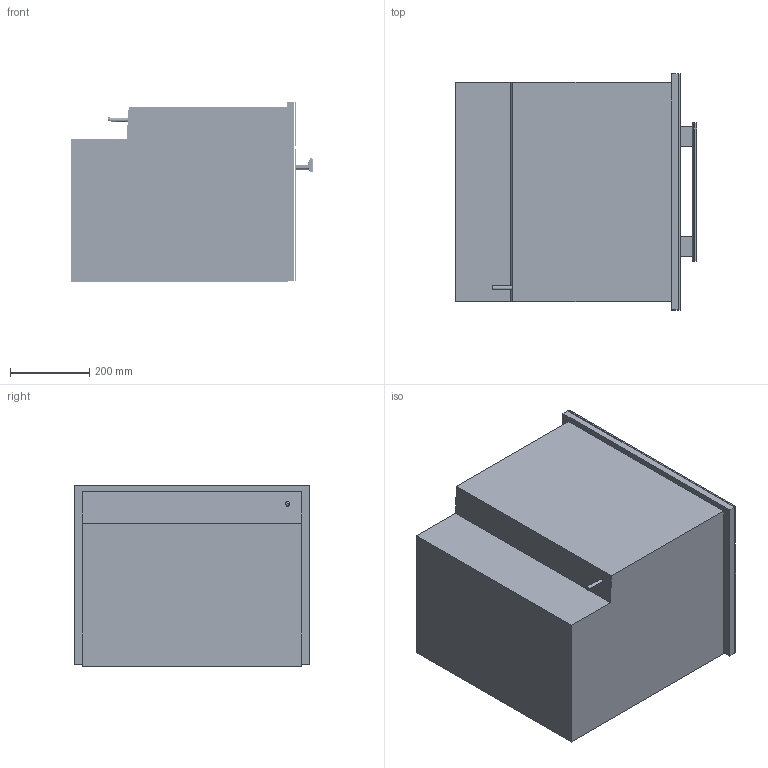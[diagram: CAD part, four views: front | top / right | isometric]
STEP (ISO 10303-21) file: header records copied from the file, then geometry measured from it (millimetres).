
FILE_DESCRIPTION(/* description */ (''),/* implementation_level */ '2;1');
FILE_NAME(/* name */ 'H6800BP_BRWS',/* time_stamp */ '2013-04-20T16:10:30+02:00',/* author */ (''),/* organization */ (''),/* preprocessor_version */ 'ST-DEVELOPER v10',/* originating_system */ '',/* authorisation */ '');
FILE_SCHEMA (('AUTOMOTIVE_DESIGN_CC2'));
Length unit declared in the file: millimetre
Products named in the file (1): 1
Bounding box: 608.89 x 595 x 455.1 mm (x, y, z)
Volume: 83160149.5 mm3; surface area: 3493872.9 mm2
Topology: 34 solids, 35 shells, 180 faces, 311 edges, 198 vertices
Faces by surface type: bspline 180
Entity records: 54174 total; most frequent: CARTESIAN_POINT 51807, ORIENTED_EDGE 610, EDGE_CURVE 307, B_SPLINE_CURVE_WITH_KNOTS 201, VERTEX_POINT 198, EDGE_LOOP 184, ADVANCED_FACE 180, FACE_OUTER_BOUND 180
